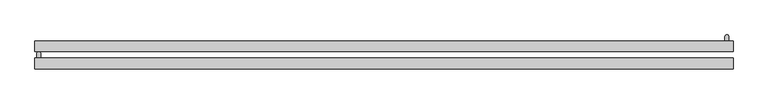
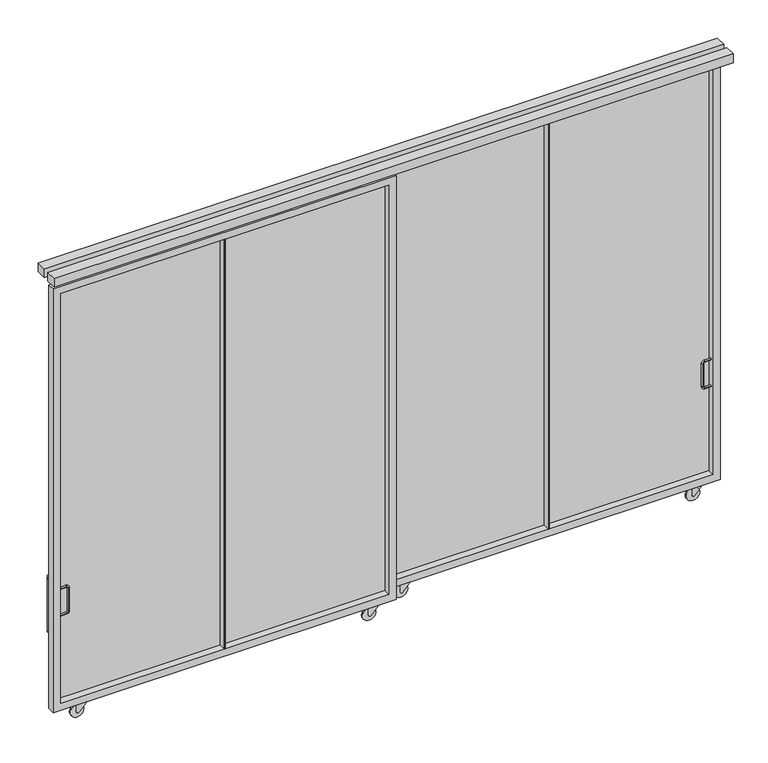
"""IFC4 building model written with IfcOpenShell, lengths in millimetres: furniture geometry, H12 Protección 4 módulos Corredizo 2 hojas : H12 Protección 4 módulos 2 hojas corredizas 450x310."""

from ifc_helpers import new_model, si_unit, point, frame, frame_2d, origin, place, context, project, spatial, polyline, circle_curve, ellipse_curve, trimmed, segment, composite_curve, outline, extrude, source, transform, mapped, element, save
from ifc_brep_helpers import plane_surface, cylinder_surface, revolved_surface, advanced_brep


def furniture_52e7fafc(model_context):
    return source(origin(), model_context, "Body", "SolidModel", [
        advanced_brep(
        [(2185.0, 26.0, 949.0), (2185.0, 38.0, 949.0), (2143.0, 38.0, 949.0), (2143.0, 26.0, 949.0), (2129.0, 38.0, 935.0), (2129.0, 38.0, 775.0), (2129.0, 26.0, 775.0), (2129.0, 26.0, 935.0), (2185.0, 26.0, 761.0), (2185.0, 38.0, 761.0), (2143.0, 38.0, 761.0), (2143.0, 26.0, 761.0)],
        [
            (0, 1, circle_curve(frame((2185.0, 32.0, 949.0), z_axis=(1.0, 0.0, 0.0), x_axis=(0.0, 1.0, 0.0)), 6.0)),
            (1, 0, circle_curve(frame((2185.0, 32.0, 949.0), z_axis=(1.0, 0.0, 0.0), x_axis=(0.0, 1.0, 0.0)), 6.0)),
            (1, 2),
            (2, 3, circle_curve(frame((2143.0, 32.0, 949.0), z_axis=(1.0, 0.0, 0.0), x_axis=(0.0, 1.0, 0.0)), 6.0)),
            (3, 0),
            (3, 2, circle_curve(frame((2143.0, 32.0, 949.0), z_axis=(1.0, 0.0, 0.0), x_axis=(0.0, 1.0, 0.0)), 6.0)),
            (4, 5),
            (5, 6, circle_curve(frame((2129.0, 32.0, 775.0), z_axis=(0.0, 0.0, 1.0), x_axis=(0.0, 1.0, 0.0)), 6.0)),
            (6, 7),
            (7, 4, circle_curve(frame((2129.0, 32.0, 935.0), z_axis=(0.0, 0.0, -1.0), x_axis=(0.0, 1.0, 0.0)), 6.0)),
            (6, 5, circle_curve(frame((2129.0, 32.0, 775.0), z_axis=(0.0, 0.0, 1.0), x_axis=(0.0, 1.0, 0.0)), 6.0)),
            (4, 7, circle_curve(frame((2129.0, 32.0, 935.0), z_axis=(0.0, 0.0, -1.0), x_axis=(0.0, 1.0, 0.0)), 6.0)),
            (8, 9, circle_curve(frame((2185.0, 32.0, 761.0), z_axis=(1.0, 0.0, 0.0), x_axis=(0.0, 1.0, 0.0)), 6.0)),
            (9, 8, circle_curve(frame((2185.0, 32.0, 761.0), z_axis=(1.0, 0.0, 0.0), x_axis=(0.0, 1.0, 0.0)), 6.0)),
            (10, 9),
            (8, 11),
            (11, 10, circle_curve(frame((2143.0, 32.0, 761.0), z_axis=(1.0, 0.0, 0.0), x_axis=(0.0, 1.0, 0.0)), 6.0)),
            (10, 11, circle_curve(frame((2143.0, 32.0, 761.0), z_axis=(1.0, 0.0, 0.0), x_axis=(0.0, 1.0, 0.0)), 6.0)),
            (7, 3, circle_curve(frame((2143.0, 26.0, 935.0), z_axis=(0.0, 1.0, 0.0), x_axis=(0.0, 0.0, 1.0)), 14.0)),
            (2, 4, circle_curve(frame((2143.0, 38.0, 935.0), z_axis=(0.0, -1.0, 0.0), x_axis=(0.0, 0.0, 1.0)), 14.0)),
            (11, 6, circle_curve(frame((2143.0, 26.0, 775.0), z_axis=(0.0, 1.0, 0.0), x_axis=(-1.0, 0.0, 0.0)), 14.0)),
            (5, 10, circle_curve(frame((2143.0, 38.0, 775.0), z_axis=(0.0, -1.0, 0.0), x_axis=(-1.0, 0.0, 0.0)), 14.0)),
        ],
        [
            plane_surface(frame((2185.0, 32.0, 955.0), z_axis=(1.0, 0.0, 0.0), x_axis=(0.0, 1.0, 0.0))),
            cylinder_surface(frame((2185.0, 32.0, 949.0), z_axis=(1.0, 0.0, 0.0), x_axis=(0.0, 1.0, 0.0)), 6.0),
            cylinder_surface(frame((2129.0, 32.0, 935.0), z_axis=(0.0, 0.0, 1.0), x_axis=(0.0, 1.0, 0.0)), 6.0),
            plane_surface(frame((2185.0, 32.0, 755.0), z_axis=(1.0, 0.0, 0.0), x_axis=(0.0, 1.0, 0.0))),
            cylinder_surface(frame((2143.0, 32.0, 761.0), z_axis=(-1.0, 0.0, 0.0), x_axis=(0.0, 1.0, 0.0)), 6.0),
            revolved_surface(trimmed(ellipse_curve(frame((2143.0, 32.0, 949.0), z_axis=(-1.0, 0.0, 0.0), x_axis=(0.0, 1.0, 0.0)), 6.0, 6.0), [point((2143.0, 26.0, 949.0))], [point((2143.0, 38.0, 949.0))], True, "CARTESIAN"), (2143.0, 32.0, 935.0), (0.0, 1.0, 0.0)),
            revolved_surface(trimmed(ellipse_curve(frame((2143.0, 32.0, 949.0), z_axis=(-1.0, 0.0, 0.0), x_axis=(0.0, 1.0, 0.0)), 6.0, 6.0), [point((2143.0, 38.0, 949.0))], [point((2143.0, 26.0, 949.0))], True, "CARTESIAN"), (2143.0, 32.0, 935.0), (0.0, 1.0, 0.0)),
            revolved_surface(trimmed(ellipse_curve(frame((2129.0, 32.0, 775.0), z_axis=(0.0, 0.0, -1.0), x_axis=(0.0, 1.0, 0.0)), 6.0, 6.0), [point((2129.0, 26.0, 775.0))], [point((2129.0, 38.0, 775.0))], True, "CARTESIAN"), (2143.0, 32.0, 775.0), (0.0, 1.0, 0.0)),
            revolved_surface(trimmed(ellipse_curve(frame((2129.0, 32.0, 775.0), z_axis=(0.0, 0.0, -1.0), x_axis=(0.0, 1.0, 0.0)), 6.0, 6.0), [point((2129.0, 38.0, 775.0))], [point((2129.0, 26.0, 775.0))], True, "CARTESIAN"), (2143.0, 32.0, 775.0), (0.0, 1.0, 0.0)),
        ],
        [
            (0, [[1, 2]]),
            (1, [[3, 4, 5, -2]]),
            (1, [[-5, 6, -3, -1]]),
            (2, [[7, 8, 9, 10]]),
            (2, [[-9, 11, -7, 12]]),
            (3, [[13, 14]]),
            (4, [[15, -13, 16, 17]]),
            (4, [[-16, -14, -15, 18]]),
            (5, [[-10, 19, -4, 20]]),
            (6, [[-12, -20, -6, -19]]),
            (7, [[-17, 21, -8, 22]]),
            (8, [[-18, -22, -11, -21]]),
        ],
    ),
        advanced_brep(
        [(2197.3, 60.0, 987.3), (2222.7, 60.0, 987.3), (2222.7, 97.3, 987.3), (2197.3, 97.3, 987.3), (2222.7, 97.3, 612.7), (2197.3, 97.3, 612.7), (2197.3, 60.0, 612.7), (2222.7, 60.0, 612.7)],
        [
            (0, 1, circle_curve(frame((2210.0, 60.0, 987.3), z_axis=(0.0, -1.0, 0.0), x_axis=(1.0, 0.0, 0.0)), 12.7)),
            (1, 0, circle_curve(frame((2210.0, 60.0, 987.3), z_axis=(0.0, -1.0, 0.0), x_axis=(1.0, 0.0, 0.0)), 12.7)),
            (1, 2),
            (2, 3, ellipse_curve(frame((2210.0, 97.3, 987.3), z_axis=(0.0, -0.7071067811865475, 0.7071067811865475), x_axis=(0.0, -0.7071067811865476, -0.7071067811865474)), 17.9605122, 12.7)),
            (3, 0),
            (3, 2, ellipse_curve(frame((2210.0, 97.3, 987.3), z_axis=(0.0, -0.7071067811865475, 0.7071067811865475), x_axis=(0.0, -0.7071067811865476, -0.7071067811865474)), 17.9605122, 12.7)),
            (2, 4),
            (4, 5, ellipse_curve(frame((2210.0, 97.3, 612.7), z_axis=(0.0, 0.7071067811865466, 0.7071067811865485), x_axis=(0.0, -0.7071067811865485, 0.7071067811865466)), 17.9605122, 12.7)),
            (5, 3),
            (5, 4, ellipse_curve(frame((2210.0, 97.3, 612.7), z_axis=(0.0, 0.7071067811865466, 0.7071067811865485), x_axis=(0.0, -0.7071067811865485, 0.7071067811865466)), 17.9605122, 12.7)),
            (6, 7, circle_curve(frame((2210.0, 60.0, 612.7), z_axis=(0.0, -1.0, 0.0), x_axis=(1.0, 0.0, 0.0)), 12.7)),
            (7, 6, circle_curve(frame((2210.0, 60.0, 612.7), z_axis=(0.0, -1.0, 0.0), x_axis=(1.0, 0.0, 0.0)), 12.7)),
            (4, 7),
            (6, 5),
        ],
        [
            plane_surface(frame((2210.0, 60.0, 1000.0), z_axis=(0.0, -1.0, 0.0), x_axis=(1.0, 0.0, 0.0))),
            cylinder_surface(frame((2210.0, 60.0, 987.3), z_axis=(0.0, -1.0, 0.0), x_axis=(1.0, 0.0, 0.0)), 12.7),
            cylinder_surface(frame((2210.0, 97.3, 1000.0), z_axis=(0.0, 0.0, 1.0), x_axis=(1.0, 0.0, 0.0)), 12.7),
            plane_surface(frame((2210.0, 60.0, 600.0), z_axis=(0.0, -1.0, 0.0), x_axis=(1.0, 0.0, 0.0))),
            cylinder_surface(frame((2210.0, 110.0, 612.7), z_axis=(0.0, 1.0, 0.0), x_axis=(1.0, 0.0, 0.0)), 12.7),
        ],
        [
            (0, [[1, 2]]),
            (1, [[3, 4, 5, -2]]),
            (1, [[-5, 6, -3, -1]]),
            (2, [[7, 8, 9, -4]]),
            (2, [[-9, 10, -7, -6]]),
            (3, [[11, 12]]),
            (4, [[13, -11, 14, -8]]),
            (4, [[-14, -12, -13, -10]]),
        ],
    ),
        extrude(outline(polyline([(2125.0, 23.0), (2055.0, 23.0), (2055.0, 47.0), (2125.0, 47.0), (2125.0, 23.0)])), frame((0.0, 0.0, 102.0), z_axis=(0.0, 0.0, 1.0), x_axis=(1.0, 0.0, 0.0)), (0.0, 0.0, 1.0), 3.0),
        extrude(outline(composite_curve([segment(polyline([(105.0, 2055.0), (45.0, 2055.0)]), True, "CONTINUOUS"), segment(trimmed(circle_curve(frame_2d((45.0, 2065.0)), 10.0), [point((45.0, 2055.0))], [point((38.2006885, 2072.3327596))], False, "CARTESIAN"), True, "CONTINUOUS"), segment(polyline([(38.2006885, 2072.3327596), (95.0, 2125.0), (105.0, 2125.0), (105.0, 2055.0)]), True, "CONTINUOUS")], self_intersect=False)), frame((0.0, 20.0, 0.0), z_axis=(0.0, 1.0, 0.0), x_axis=(0.0, 0.0, 1.0)), (0.0, 0.0, 1.0), 3.0),
        extrude(outline(composite_curve([segment(polyline([(105.0, 2055.0), (45.0, 2055.0)]), True, "CONTINUOUS"), segment(trimmed(circle_curve(frame_2d((45.0, 2065.0)), 10.0), [point((45.0, 2055.0))], [point((38.2006885, 2072.3327596))], False, "CARTESIAN"), True, "CONTINUOUS"), segment(polyline([(38.2006885, 2072.3327596), (95.0, 2125.0), (105.0, 2125.0), (105.0, 2055.0)]), True, "CONTINUOUS")], self_intersect=False)), frame((0.0, 47.0, 0.0), z_axis=(0.0, 1.0, 0.0), x_axis=(0.0, 0.0, 1.0)), (0.0, 0.0, 1.0), 3.0),
        extrude(outline(composite_curve([segment(trimmed(circle_curve(frame_2d((45.0, 2065.0)), 45.0), [point((45.0, 2020.0))], [point((45.0, 2110.0))], False, "CARTESIAN"), True, "CONTINUOUS"), segment(trimmed(circle_curve(frame_2d((45.0, 2065.0)), 45.0), [point((45.0, 2110.0))], [point((45.0, 2020.0))], False, "CARTESIAN"), True, "CONTINUOUS")], self_intersect=False)), frame((0.0, 30.0, 0.0), z_axis=(0.0, 1.0, 0.0), x_axis=(0.0, 0.0, 1.0)), (0.0, 0.0, 1.0), 10.0),
        extrude(outline(polyline([(190.0, 23.0), (120.0, 23.0), (120.0, 47.0), (190.0, 47.0), (190.0, 23.0)])), frame((0.0, 0.0, 102.0), z_axis=(0.0, 0.0, 1.0), x_axis=(1.0, 0.0, 0.0)), (0.0, 0.0, 1.0), 3.0),
        extrude(outline(composite_curve([segment(polyline([(105.0, 120.0), (45.0, 120.0)]), True, "CONTINUOUS"), segment(trimmed(circle_curve(frame_2d((45.0, 130.0)), 10.0), [point((45.0, 120.0))], [point((38.2006885, 137.3327596))], False, "CARTESIAN"), True, "CONTINUOUS"), segment(polyline([(38.2006885, 137.3327596), (95.0, 190.0), (105.0, 190.0), (105.0, 120.0)]), True, "CONTINUOUS")], self_intersect=False)), frame((0.0, 20.0, 0.0), z_axis=(0.0, 1.0, 0.0), x_axis=(0.0, 0.0, 1.0)), (0.0, 0.0, 1.0), 3.0),
        extrude(outline(composite_curve([segment(polyline([(105.0, 120.0), (45.0, 120.0)]), True, "CONTINUOUS"), segment(trimmed(circle_curve(frame_2d((45.0, 130.0)), 10.0), [point((45.0, 120.0))], [point((38.2006885, 137.3327596))], False, "CARTESIAN"), True, "CONTINUOUS"), segment(polyline([(38.2006885, 137.3327596), (95.0, 190.0), (105.0, 190.0), (105.0, 120.0)]), True, "CONTINUOUS")], self_intersect=False)), frame((0.0, 47.0, 0.0), z_axis=(0.0, 1.0, 0.0), x_axis=(0.0, 0.0, 1.0)), (0.0, 0.0, 1.0), 3.0),
        extrude(outline(composite_curve([segment(trimmed(circle_curve(frame_2d((45.0, 130.0)), 45.0), [point((45.0, 85.0))], [point((45.0, 175.0))], False, "CARTESIAN"), True, "CONTINUOUS"), segment(trimmed(circle_curve(frame_2d((45.0, 130.0)), 45.0), [point((45.0, 175.0))], [point((45.0, 85.0))], False, "CARTESIAN"), True, "CONTINUOUS")], self_intersect=False)), frame((0.0, 30.0, 0.0), z_axis=(0.0, 1.0, 0.0), x_axis=(0.0, 0.0, 1.0)), (0.0, 0.0, 1.0), 10.0),
        advanced_brep(
        [(-2200.0, -96.0, 949.0), (-2200.0, -84.0, 949.0), (-2158.0, -96.0, 949.0), (-2158.0, -84.0, 949.0), (-2144.0, -84.0, 935.0), (-2144.0, -96.0, 935.0), (-2144.0, -96.0, 775.0), (-2144.0, -84.0, 775.0), (-2200.0, -96.0, 761.0), (-2200.0, -84.0, 761.0), (-2158.0, -84.0, 761.0), (-2158.0, -96.0, 761.0)],
        [
            (0, 1, circle_curve(frame((-2200.0, -90.0, 949.0), z_axis=(-1.0, 0.0, 0.0), x_axis=(0.0, 1.0, 0.0)), 6.0)),
            (1, 0, circle_curve(frame((-2200.0, -90.0, 949.0), z_axis=(-1.0, 0.0, 0.0), x_axis=(0.0, 1.0, 0.0)), 6.0)),
            (0, 2),
            (2, 3, circle_curve(frame((-2158.0, -90.0, 949.0), z_axis=(-1.0, 0.0, 0.0), x_axis=(0.0, 1.0, 0.0)), 6.0)),
            (3, 1),
            (3, 2, circle_curve(frame((-2158.0, -90.0, 949.0), z_axis=(-1.0, 0.0, 0.0), x_axis=(0.0, 1.0, 0.0)), 6.0)),
            (4, 5, circle_curve(frame((-2144.0, -90.0, 935.0), z_axis=(0.0, 0.0, -1.0), x_axis=(0.0, 1.0, 0.0)), 6.0)),
            (5, 6),
            (6, 7, circle_curve(frame((-2144.0, -90.0, 775.0), z_axis=(0.0, 0.0, 1.0), x_axis=(0.0, 1.0, 0.0)), 6.0)),
            (7, 4),
            (5, 4, circle_curve(frame((-2144.0, -90.0, 935.0), z_axis=(0.0, 0.0, -1.0), x_axis=(0.0, 1.0, 0.0)), 6.0)),
            (7, 6, circle_curve(frame((-2144.0, -90.0, 775.0), z_axis=(0.0, 0.0, 1.0), x_axis=(0.0, 1.0, 0.0)), 6.0)),
            (8, 9, circle_curve(frame((-2200.0, -90.0, 761.0), z_axis=(-1.0, 0.0, 0.0), x_axis=(0.0, 1.0, 0.0)), 6.0)),
            (9, 8, circle_curve(frame((-2200.0, -90.0, 761.0), z_axis=(-1.0, 0.0, 0.0), x_axis=(0.0, 1.0, 0.0)), 6.0)),
            (10, 11, circle_curve(frame((-2158.0, -90.0, 761.0), z_axis=(-1.0, 0.0, 0.0), x_axis=(0.0, 1.0, 0.0)), 6.0)),
            (11, 8),
            (9, 10),
            (11, 10, circle_curve(frame((-2158.0, -90.0, 761.0), z_axis=(-1.0, 0.0, 0.0), x_axis=(0.0, 1.0, 0.0)), 6.0)),
            (4, 3, circle_curve(frame((-2158.0, -84.0, 935.0), z_axis=(0.0, -1.0, 0.0), x_axis=(0.0, 0.0, 1.0)), 14.0)),
            (2, 5, circle_curve(frame((-2158.0, -96.0, 935.0), z_axis=(0.0, 1.0, 0.0), x_axis=(0.0, 0.0, 1.0)), 14.0)),
            (10, 7, circle_curve(frame((-2158.0, -84.0, 775.0), z_axis=(0.0, -1.0, 0.0), x_axis=(1.0, 0.0, 0.0)), 14.0)),
            (6, 11, circle_curve(frame((-2158.0, -96.0, 775.0), z_axis=(0.0, 1.0, 0.0), x_axis=(1.0, 0.0, 0.0)), 14.0)),
        ],
        [
            plane_surface(frame((-2200.0, -90.0, 955.0), z_axis=(-1.0, 0.0, 0.0), x_axis=(0.0, 1.0, 0.0))),
            cylinder_surface(frame((-2200.0, -90.0, 949.0), z_axis=(-1.0, 0.0, 0.0), x_axis=(0.0, 1.0, 0.0)), 6.0),
            cylinder_surface(frame((-2144.0, -90.0, 935.0), z_axis=(0.0, 0.0, 1.0), x_axis=(0.0, 1.0, 0.0)), 6.0),
            plane_surface(frame((-2200.0, -90.0, 755.0), z_axis=(-1.0, 0.0, 0.0), x_axis=(0.0, 1.0, 0.0))),
            cylinder_surface(frame((-2158.0, -90.0, 761.0), z_axis=(1.0, 0.0, 0.0), x_axis=(0.0, 1.0, 0.0)), 6.0),
            revolved_surface(trimmed(ellipse_curve(frame((-2158.0, -90.0, 949.0), z_axis=(-1.0, 0.0, 0.0), x_axis=(0.0, 1.0, 0.0)), 6.0, 6.0), [point((-2158.0, -96.0, 949.0))], [point((-2158.0, -84.0, 949.0))], True, "CARTESIAN"), (-2158.0, -90.0, 935.0), (0.0, 1.0, 0.0)),
            revolved_surface(trimmed(ellipse_curve(frame((-2158.0, -90.0, 949.0), z_axis=(-1.0, 0.0, 0.0), x_axis=(0.0, 1.0, 0.0)), 6.0, 6.0), [point((-2158.0, -84.0, 949.0))], [point((-2158.0, -96.0, 949.0))], True, "CARTESIAN"), (-2158.0, -90.0, 935.0), (0.0, 1.0, 0.0)),
            revolved_surface(trimmed(ellipse_curve(frame((-2144.0, -90.0, 775.0), z_axis=(0.0, 0.0, 1.0), x_axis=(0.0, 1.0, 0.0)), 6.0, 6.0), [point((-2144.0, -96.0, 775.0))], [point((-2144.0, -84.0, 775.0))], True, "CARTESIAN"), (-2158.0, -90.0, 775.0), (0.0, 1.0, 0.0)),
            revolved_surface(trimmed(ellipse_curve(frame((-2144.0, -90.0, 775.0), z_axis=(0.0, 0.0, 1.0), x_axis=(0.0, 1.0, 0.0)), 6.0, 6.0), [point((-2144.0, -84.0, 775.0))], [point((-2144.0, -96.0, 775.0))], True, "CARTESIAN"), (-2158.0, -90.0, 775.0), (0.0, 1.0, 0.0)),
        ],
        [
            (0, [[1, 2]]),
            (1, [[-1, 3, 4, 5]]),
            (1, [[-2, -5, 6, -3]]),
            (2, [[7, 8, 9, 10]]),
            (2, [[11, -10, 12, -8]]),
            (3, [[13, 14]]),
            (4, [[15, 16, -14, 17]]),
            (4, [[18, -17, -13, -16]]),
            (5, [[19, -4, 20, -7]]),
            (6, [[-20, -6, -19, -11]]),
            (7, [[21, -9, 22, -15]]),
            (8, [[-22, -12, -21, -18]]),
        ],
    ),
        advanced_brep(
        [(-2237.7, -50.0, 987.0), (-2212.3, -50.0, 987.0), (-2212.3, -12.7, 987.0), (-2237.7, -12.7, 987.0), (-2212.3, -12.7, 612.4), (-2237.7, -12.7, 612.4), (-2237.7, -50.0, 612.4), (-2212.3, -50.0, 612.4)],
        [
            (0, 1, circle_curve(frame((-2225.0, -50.0, 987.0), z_axis=(0.0, -1.0, 0.0), x_axis=(1.0, 0.0, 0.0)), 12.7)),
            (1, 0, circle_curve(frame((-2225.0, -50.0, 987.0), z_axis=(0.0, -1.0, 0.0), x_axis=(1.0, 0.0, 0.0)), 12.7)),
            (1, 2),
            (2, 3, ellipse_curve(frame((-2225.0, -12.7, 987.0), z_axis=(0.0, -0.7071067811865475, 0.7071067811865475), x_axis=(0.0, -0.7071067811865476, -0.7071067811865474)), 17.9605122, 12.7)),
            (3, 0),
            (3, 2, ellipse_curve(frame((-2225.0, -12.7, 987.0), z_axis=(0.0, -0.7071067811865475, 0.7071067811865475), x_axis=(0.0, -0.7071067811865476, -0.7071067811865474)), 17.9605122, 12.7)),
            (2, 4),
            (4, 5, ellipse_curve(frame((-2225.0, -12.7, 612.4), z_axis=(0.0, 0.7071067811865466, 0.7071067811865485), x_axis=(0.0, -0.7071067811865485, 0.7071067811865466)), 17.9605122, 12.7)),
            (5, 3),
            (5, 4, ellipse_curve(frame((-2225.0, -12.7, 612.4), z_axis=(0.0, 0.7071067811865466, 0.7071067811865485), x_axis=(0.0, -0.7071067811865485, 0.7071067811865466)), 17.9605122, 12.7)),
            (6, 7, circle_curve(frame((-2225.0, -50.0, 612.4), z_axis=(0.0, -1.0, 0.0), x_axis=(1.0, 0.0, 0.0)), 12.7)),
            (7, 6, circle_curve(frame((-2225.0, -50.0, 612.4), z_axis=(0.0, -1.0, 0.0), x_axis=(1.0, 0.0, 0.0)), 12.7)),
            (4, 7),
            (6, 5),
        ],
        [
            plane_surface(frame((-2225.0, -50.0, 999.7), z_axis=(0.0, -1.0, 0.0), x_axis=(1.0, 0.0, 0.0))),
            cylinder_surface(frame((-2225.0, -50.0, 987.0), z_axis=(0.0, -1.0, 0.0), x_axis=(1.0, 0.0, 0.0)), 12.7),
            cylinder_surface(frame((-2225.0, -12.7, 999.7), z_axis=(0.0, 0.0, 1.0), x_axis=(1.0, 0.0, 0.0)), 12.7),
            plane_surface(frame((-2225.0, -50.0, 599.7), z_axis=(0.0, -1.0, 0.0), x_axis=(1.0, 0.0, 0.0))),
            cylinder_surface(frame((-2225.0, 0.0, 612.4), z_axis=(0.0, 1.0, 0.0), x_axis=(1.0, 0.0, 0.0)), 12.7),
        ],
        [
            (0, [[1, 2]]),
            (1, [[3, 4, 5, -2]]),
            (1, [[-5, 6, -3, -1]]),
            (2, [[7, 8, 9, -4]]),
            (2, [[-9, 10, -7, -6]]),
            (3, [[11, 12]]),
            (4, [[13, -11, 14, -8]]),
            (4, [[-14, -12, -13, -10]]),
        ],
    ),
        extrude(outline(polyline([(-85.0, -87.0), (-155.0, -87.0), (-155.0, -63.0), (-85.0, -63.0), (-85.0, -87.0)])), frame((0.0, 0.0, 102.0), z_axis=(0.0, 0.0, 1.0), x_axis=(1.0, 0.0, 0.0)), (0.0, 0.0, 1.0), 3.0),
        extrude(outline(composite_curve([segment(polyline([(105.0, -155.0), (45.0, -155.0)]), True, "CONTINUOUS"), segment(trimmed(circle_curve(frame_2d((45.0, -145.0)), 10.0), [point((45.0, -155.0))], [point((38.2006885, -137.6672404))], False, "CARTESIAN"), True, "CONTINUOUS"), segment(polyline([(38.2006885, -137.6672404), (95.0, -85.0), (105.0, -85.0), (105.0, -155.0)]), True, "CONTINUOUS")], self_intersect=False)), frame((0.0, -90.0, 0.0), z_axis=(0.0, 1.0, 0.0), x_axis=(0.0, 0.0, 1.0)), (0.0, 0.0, 1.0), 3.0),
        extrude(outline(composite_curve([segment(polyline([(105.0, -155.0), (45.0, -155.0)]), True, "CONTINUOUS"), segment(trimmed(circle_curve(frame_2d((45.0, -145.0)), 10.0), [point((45.0, -155.0))], [point((38.2006885, -137.6672404))], False, "CARTESIAN"), True, "CONTINUOUS"), segment(polyline([(38.2006885, -137.6672404), (95.0, -85.0), (105.0, -85.0), (105.0, -155.0)]), True, "CONTINUOUS")], self_intersect=False)), frame((0.0, -63.0, 0.0), z_axis=(0.0, 1.0, 0.0), x_axis=(0.0, 0.0, 1.0)), (0.0, 0.0, 1.0), 3.0),
        extrude(outline(composite_curve([segment(trimmed(circle_curve(frame_2d((45.0, -145.0)), 45.0), [point((45.0, -190.0))], [point((45.0, -100.0))], False, "CARTESIAN"), True, "CONTINUOUS"), segment(trimmed(circle_curve(frame_2d((45.0, -145.0)), 45.0), [point((45.0, -100.0))], [point((45.0, -190.0))], False, "CARTESIAN"), True, "CONTINUOUS")], self_intersect=False)), frame((0.0, -80.0, 0.0), z_axis=(0.0, 1.0, 0.0), x_axis=(0.0, 0.0, 1.0)), (0.0, 0.0, 1.0), 10.0),
        extrude(outline(polyline([(-2020.0, -87.0), (-2090.0, -87.0), (-2090.0, -63.0), (-2020.0, -63.0), (-2020.0, -87.0)])), frame((0.0, 0.0, 102.0), z_axis=(0.0, 0.0, 1.0), x_axis=(1.0, 0.0, 0.0)), (0.0, 0.0, 1.0), 3.0),
        extrude(outline(composite_curve([segment(polyline([(105.0, -2090.0), (45.0, -2090.0)]), True, "CONTINUOUS"), segment(trimmed(circle_curve(frame_2d((45.0, -2080.0)), 10.0), [point((45.0, -2090.0))], [point((38.2006885, -2072.6672404))], False, "CARTESIAN"), True, "CONTINUOUS"), segment(polyline([(38.2006885, -2072.6672404), (95.0, -2020.0), (105.0, -2020.0), (105.0, -2090.0)]), True, "CONTINUOUS")], self_intersect=False)), frame((0.0, -90.0, 0.0), z_axis=(0.0, 1.0, 0.0), x_axis=(0.0, 0.0, 1.0)), (0.0, 0.0, 1.0), 3.0),
        extrude(outline(composite_curve([segment(polyline([(105.0, -2090.0), (45.0, -2090.0)]), True, "CONTINUOUS"), segment(trimmed(circle_curve(frame_2d((45.0, -2080.0)), 10.0), [point((45.0, -2090.0))], [point((38.2006885, -2072.6672404))], False, "CARTESIAN"), True, "CONTINUOUS"), segment(polyline([(38.2006885, -2072.6672404), (95.0, -2020.0), (105.0, -2020.0), (105.0, -2090.0)]), True, "CONTINUOUS")], self_intersect=False)), frame((0.0, -63.0, 0.0), z_axis=(0.0, 1.0, 0.0), x_axis=(0.0, 0.0, 1.0)), (0.0, 0.0, 1.0), 3.0),
        extrude(outline(composite_curve([segment(trimmed(circle_curve(frame_2d((45.0, -2080.0)), 45.0), [point((45.0, -2125.0))], [point((45.0, -2035.0))], False, "CARTESIAN"), True, "CONTINUOUS"), segment(trimmed(circle_curve(frame_2d((45.0, -2080.0)), 45.0), [point((45.0, -2035.0))], [point((45.0, -2125.0))], False, "CARTESIAN"), True, "CONTINUOUS")], self_intersect=False)), frame((0.0, -80.0, 0.0), z_axis=(0.0, 1.0, 0.0), x_axis=(0.0, 0.0, 1.0)), (0.0, 0.0, 1.0), 10.0),
        extrude(outline(polyline([(1101.0, 60.0), (1101.0, 10.0), (1097.5, 10.0), (1097.5, 60.0), (1101.0, 60.0)])), frame((0.0, 0.0, 150.0), z_axis=(0.0, 0.0, 1.0), x_axis=(1.0, 0.0, 0.0)), (0.0, 0.0, 1.0), 2870.0),
        extrude(outline(polyline([(1097.5, 60.0), (1097.5, 10.0), (1094.0, 10.0), (1094.0, 60.0), (1097.5, 60.0)])), frame((0.0, 0.0, 150.0), z_axis=(0.0, 0.0, 1.0), x_axis=(1.0, 0.0, 0.0)), (0.0, 0.0, 1.0), 2870.0),
        extrude(outline(polyline([(1094.0, 60.0), (1094.0, 57.0), (10.0, 57.0), (10.0, 60.0), (1094.0, 60.0)])), frame((0.0, 0.0, 150.0), z_axis=(0.0, 0.0, 1.0), x_axis=(1.0, 0.0, 0.0)), (0.0, 0.0, 1.0), 2870.0),
        extrude(outline(polyline([(2185.0, 60.0), (2185.0, 57.0), (1101.0, 57.0), (1101.0, 60.0), (2185.0, 60.0)])), frame((0.0, 0.0, 150.0), z_axis=(0.0, 0.0, 1.0), x_axis=(1.0, 0.0, 0.0)), (0.0, 0.0, 1.0), 2870.0),
        extrude(outline(polyline([(3070.0, 2235.0), (3070.0, -40.0), (100.0, -40.0), (100.0, 2235.0), (3070.0, 2235.0)]), holes=[polyline([(3020.0, 2185.0), (150.0, 2185.0), (150.0, 10.0), (3020.0, 10.0), (3020.0, 2185.0)])]), frame((0.0, 10.0, 0.0), z_axis=(0.0, 1.0, 0.0), x_axis=(0.0, 0.0, 1.0)), (0.0, 0.0, 1.0), 50.0),
        extrude(outline(polyline([(-25.0, -50.0), (-25.0, -53.0), (-1109.0, -53.0), (-1109.0, -50.0), (-25.0, -50.0)])), frame((0.0, 0.0, 150.0), z_axis=(0.0, 0.0, 1.0), x_axis=(1.0, 0.0, 0.0)), (0.0, 0.0, 1.0), 2870.0),
        extrude(outline(polyline([(-1116.0, -50.0), (-1116.0, -53.0), (-2200.0, -53.0), (-2200.0, -50.0), (-1116.0, -50.0)])), frame((0.0, 0.0, 150.0), z_axis=(0.0, 0.0, 1.0), x_axis=(1.0, 0.0, 0.0)), (0.0, 0.0, 1.0), 2870.0),
        extrude(outline(polyline([(-1109.0, -50.0), (-1109.0, -100.0), (-1112.5, -100.0), (-1112.5, -50.0), (-1109.0, -50.0)])), frame((0.0, 0.0, 150.0), z_axis=(0.0, 0.0, 1.0), x_axis=(1.0, 0.0, 0.0)), (0.0, 0.0, 1.0), 2870.0),
        extrude(outline(polyline([(-1112.5, -50.0), (-1112.5, -100.0), (-1116.0, -100.0), (-1116.0, -50.0), (-1112.5, -50.0)])), frame((0.0, 0.0, 150.0), z_axis=(0.0, 0.0, 1.0), x_axis=(1.0, 0.0, 0.0)), (0.0, 0.0, 1.0), 2870.0),
        extrude(outline(polyline([(3070.0, 25.0), (3070.0, -2250.0), (100.0, -2250.0), (100.0, 25.0), (3070.0, 25.0)]), holes=[polyline([(3020.0, -25.0), (150.0, -25.0), (150.0, -2200.0), (3020.0, -2200.0), (3020.0, -25.0)])]), frame((0.0, -100.0, 0.0), z_axis=(0.0, 1.0, 0.0), x_axis=(0.0, 0.0, 1.0)), (0.0, 0.0, 1.0), 50.0),
        extrude(outline(polyline([(2250.0, 70.0), (2250.0, 0.0), (-2250.0, 0.0), (-2250.0, 70.0), (2250.0, 70.0)])), frame((0.0, 0.0, 3090.0), z_axis=(0.0, 0.0, 1.0), x_axis=(1.0, 0.0, 0.0)), (0.0, 0.0, 1.0), 60.0),
        extrude(outline(polyline([(2250.0, -40.0), (2250.0, -110.0), (-2250.0, -110.0), (-2250.0, -40.0), (2250.0, -40.0)])), frame((0.0, 0.0, 3090.0), z_axis=(0.0, 0.0, 1.0), x_axis=(1.0, 0.0, 0.0)), (0.0, 0.0, 1.0), 60.0),
    ])


if __name__ == "__main__":
    model = new_model("IFC4")
    model_context = context("Model", 3, world=origin())
    ifc_project = project(units=[si_unit("LENGTHUNIT", "METRE", prefix="MILLI")], contexts=[model_context])
    site = spatial("IfcSite", under=ifc_project)
    building = spatial("IfcBuilding", under=site)
    placement = place(None, origin())
    furniture_shape = furniture_52e7fafc(model_context)
    element("IfcFurniture", 1, ObjectType="H12 Protección 4 módulos Corredizo 2 hojas : H12 Protección 4 módulos 2 hojas corredizas 450x310", at=placement, inside=building, context=model_context, shape_type="MappedRepresentation", body=[
        mapped(furniture_shape, transform((0.0, 0.0, 0.0), x_axis=(1.0, 0.0, 0.0), y_axis=(0.0, 1.0, 0.0), z_axis=(0.0, 0.0, 1.0))),
    ])
    save(model, "model.ifc")
